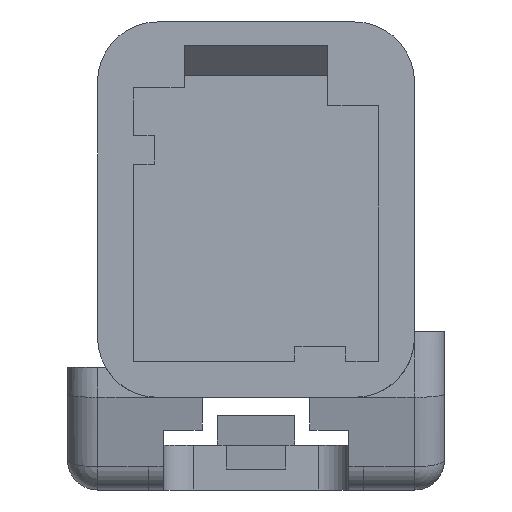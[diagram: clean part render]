
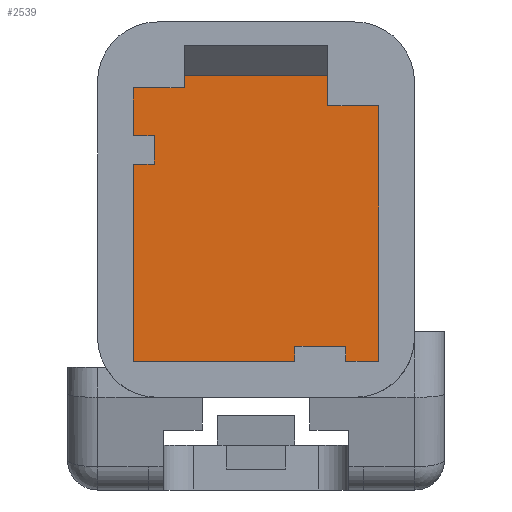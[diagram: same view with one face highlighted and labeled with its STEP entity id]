
A CAD part, left-side view. The second image highlights one B-rep face of the part: STEP entity #2539.
In plain terms, the highlighted planar face has unit normal (-1, 0, 0).
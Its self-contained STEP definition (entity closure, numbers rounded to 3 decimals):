
#2439=AXIS2_PLACEMENT_3D('Plane Axis2P3D',#2436,#2437,#2438) ;
#2041=CARTESIAN_POINT('Vertex',(0.,-1.4,5.225)) ;
#2044=CARTESIAN_POINT('Line Origine',(0.,-2.25,5.225)) ;
#2048=CARTESIAN_POINT('Vertex',(0.,-3.1,5.225)) ;
#2068=CARTESIAN_POINT('Line Origine',(0.,-3.1,0.95)) ;
#2072=CARTESIAN_POINT('Vertex',(0.,-3.1,-3.325)) ;
#2099=CARTESIAN_POINT('Line Origine',(0.,-2.55,-3.325)) ;
#2103=CARTESIAN_POINT('Vertex',(0.,-2.,-3.325)) ;
#2143=CARTESIAN_POINT('Vertex',(0.,3.4,6.625)) ;
#2146=CARTESIAN_POINT('Line Origine',(0.,3.,6.625)) ;
#2150=CARTESIAN_POINT('Vertex',(0.,2.6,6.625)) ;
#2169=CARTESIAN_POINT('Vertex',(0.,-0.6,6.625)) ;
#2174=CARTESIAN_POINT('Line Origine',(0.,-1.,6.625)) ;
#2178=CARTESIAN_POINT('Vertex',(0.,-1.4,6.625)) ;
#2205=CARTESIAN_POINT('Line Origine',(0.,5.1,-0.025)) ;
#2209=CARTESIAN_POINT('Vertex',(0.,5.1,-3.325)) ;
#2211=CARTESIAN_POINT('Vertex',(0.,5.1,3.275)) ;
#2240=CARTESIAN_POINT('Line Origine',(0.,2.4,-3.325)) ;
#2244=CARTESIAN_POINT('Vertex',(0.,-0.3,-3.325)) ;
#2277=CARTESIAN_POINT('Vertex',(0.,4.4,3.275)) ;
#2285=CARTESIAN_POINT('Line Origine',(0.,4.75,3.275)) ;
#2436=CARTESIAN_POINT('Axis2P3D Location',(0.,1.,0.275)) ;
#2441=CARTESIAN_POINT('Line Origine',(0.,-1.4,5.925)) ;
#2446=CARTESIAN_POINT('Line Origine',(0.,-0.6,6.725)) ;
#2450=CARTESIAN_POINT('Vertex',(0.,-0.6,6.825)) ;
#2453=CARTESIAN_POINT('Line Origine',(0.,1.,6.825)) ;
#2457=CARTESIAN_POINT('Vertex',(0.,2.6,6.825)) ;
#2460=CARTESIAN_POINT('Line Origine',(0.,2.6,6.725)) ;
#2465=CARTESIAN_POINT('Line Origine',(0.,3.4,6.225)) ;
#2469=CARTESIAN_POINT('Vertex',(0.,3.4,5.825)) ;
#2472=CARTESIAN_POINT('Line Origine',(0.,4.25,5.825)) ;
#2476=CARTESIAN_POINT('Vertex',(0.,5.1,5.825)) ;
#2479=CARTESIAN_POINT('Line Origine',(0.,5.1,5.025)) ;
#2483=CARTESIAN_POINT('Vertex',(0.,5.1,4.225)) ;
#2486=CARTESIAN_POINT('Line Origine',(0.,4.75,4.225)) ;
#2490=CARTESIAN_POINT('Vertex',(0.,4.4,4.225)) ;
#2493=CARTESIAN_POINT('Line Origine',(0.,4.4,3.75)) ;
#2498=CARTESIAN_POINT('Line Origine',(0.,-0.3,-3.075)) ;
#2502=CARTESIAN_POINT('Vertex',(0.,-0.3,-2.825)) ;
#2505=CARTESIAN_POINT('Line Origine',(0.,-1.15,-2.825)) ;
#2509=CARTESIAN_POINT('Vertex',(0.,-2.,-2.825)) ;
#2512=CARTESIAN_POINT('Line Origine',(0.,-2.,-3.075)) ;
#2045=DIRECTION('Vector Direction',(0.,1.,0.)) ;
#2069=DIRECTION('Vector Direction',(0.,0.,-1.)) ;
#2100=DIRECTION('Vector Direction',(0.,1.,0.)) ;
#2147=DIRECTION('Vector Direction',(0.,-1.,0.)) ;
#2175=DIRECTION('Vector Direction',(0.,-1.,0.)) ;
#2206=DIRECTION('Vector Direction',(0.,0.,1.)) ;
#2241=DIRECTION('Vector Direction',(0.,1.,0.)) ;
#2286=DIRECTION('Vector Direction',(0.,-1.,0.)) ;
#2437=DIRECTION('Axis2P3D Direction',(1.,0.,0.)) ;
#2438=DIRECTION('Axis2P3D XDirection',(0.,1.,0.)) ;
#2442=DIRECTION('Vector Direction',(0.,0.,-1.)) ;
#2447=DIRECTION('Vector Direction',(0.,0.,1.)) ;
#2454=DIRECTION('Vector Direction',(0.,-1.,0.)) ;
#2461=DIRECTION('Vector Direction',(0.,0.,-1.)) ;
#2466=DIRECTION('Vector Direction',(0.,0.,1.)) ;
#2473=DIRECTION('Vector Direction',(0.,-1.,0.)) ;
#2480=DIRECTION('Vector Direction',(0.,0.,1.)) ;
#2487=DIRECTION('Vector Direction',(0.,-1.,0.)) ;
#2494=DIRECTION('Vector Direction',(0.,0.,1.)) ;
#2499=DIRECTION('Vector Direction',(0.,0.,1.)) ;
#2506=DIRECTION('Vector Direction',(0.,-1.,0.)) ;
#2513=DIRECTION('Vector Direction',(0.,0.,1.)) ;
#2046=VECTOR('Line Direction',#2045,1.) ;
#2070=VECTOR('Line Direction',#2069,1.) ;
#2101=VECTOR('Line Direction',#2100,1.) ;
#2148=VECTOR('Line Direction',#2147,1.) ;
#2176=VECTOR('Line Direction',#2175,1.) ;
#2207=VECTOR('Line Direction',#2206,1.) ;
#2242=VECTOR('Line Direction',#2241,1.) ;
#2287=VECTOR('Line Direction',#2286,1.) ;
#2443=VECTOR('Line Direction',#2442,1.) ;
#2448=VECTOR('Line Direction',#2447,1.) ;
#2455=VECTOR('Line Direction',#2454,1.) ;
#2462=VECTOR('Line Direction',#2461,1.) ;
#2467=VECTOR('Line Direction',#2466,1.) ;
#2474=VECTOR('Line Direction',#2473,1.) ;
#2481=VECTOR('Line Direction',#2480,1.) ;
#2488=VECTOR('Line Direction',#2487,1.) ;
#2495=VECTOR('Line Direction',#2494,1.) ;
#2500=VECTOR('Line Direction',#2499,1.) ;
#2507=VECTOR('Line Direction',#2506,1.) ;
#2514=VECTOR('Line Direction',#2513,1.) ;
#2518=ORIENTED_EDGE('',*,*,#2445,.F.) ;
#2519=ORIENTED_EDGE('',*,*,#2180,.F.) ;
#2520=ORIENTED_EDGE('',*,*,#2452,.T.) ;
#2521=ORIENTED_EDGE('',*,*,#2459,.T.) ;
#2522=ORIENTED_EDGE('',*,*,#2464,.T.) ;
#2523=ORIENTED_EDGE('',*,*,#2152,.F.) ;
#2524=ORIENTED_EDGE('',*,*,#2471,.F.) ;
#2525=ORIENTED_EDGE('',*,*,#2478,.F.) ;
#2526=ORIENTED_EDGE('',*,*,#2485,.F.) ;
#2527=ORIENTED_EDGE('',*,*,#2492,.T.) ;
#2528=ORIENTED_EDGE('',*,*,#2497,.F.) ;
#2529=ORIENTED_EDGE('',*,*,#2289,.F.) ;
#2530=ORIENTED_EDGE('',*,*,#2213,.F.) ;
#2531=ORIENTED_EDGE('',*,*,#2246,.F.) ;
#2532=ORIENTED_EDGE('',*,*,#2504,.T.) ;
#2533=ORIENTED_EDGE('',*,*,#2511,.T.) ;
#2534=ORIENTED_EDGE('',*,*,#2516,.F.) ;
#2535=ORIENTED_EDGE('',*,*,#2105,.F.) ;
#2536=ORIENTED_EDGE('',*,*,#2074,.F.) ;
#2537=ORIENTED_EDGE('',*,*,#2050,.F.) ;
#2539=ADVANCED_FACE('\X2\FF8AFF9FFF70FF82\X0\ \X2\FF8EFF9EFF83FF9EFF68FF70\X0\',(#2538),#2440,.F.) ;
#2050=EDGE_CURVE('',#2042,#2049,#2047,.F.) ;
#2074=EDGE_CURVE('',#2049,#2073,#2071,.T.) ;
#2105=EDGE_CURVE('',#2073,#2104,#2102,.T.) ;
#2152=EDGE_CURVE('',#2144,#2151,#2149,.T.) ;
#2180=EDGE_CURVE('',#2170,#2179,#2177,.T.) ;
#2213=EDGE_CURVE('',#2210,#2212,#2208,.T.) ;
#2246=EDGE_CURVE('',#2245,#2210,#2243,.T.) ;
#2289=EDGE_CURVE('',#2212,#2278,#2288,.T.) ;
#2445=EDGE_CURVE('',#2179,#2042,#2444,.T.) ;
#2452=EDGE_CURVE('',#2170,#2451,#2449,.T.) ;
#2459=EDGE_CURVE('',#2451,#2458,#2456,.F.) ;
#2464=EDGE_CURVE('',#2458,#2151,#2463,.T.) ;
#2471=EDGE_CURVE('',#2470,#2144,#2468,.T.) ;
#2478=EDGE_CURVE('',#2477,#2470,#2475,.T.) ;
#2485=EDGE_CURVE('',#2484,#2477,#2482,.T.) ;
#2492=EDGE_CURVE('',#2484,#2491,#2489,.T.) ;
#2497=EDGE_CURVE('',#2278,#2491,#2496,.T.) ;
#2504=EDGE_CURVE('',#2245,#2503,#2501,.T.) ;
#2511=EDGE_CURVE('',#2503,#2510,#2508,.T.) ;
#2516=EDGE_CURVE('',#2104,#2510,#2515,.T.) ;
#2517=EDGE_LOOP('',(#2518,#2519,#2520,#2521,#2522,#2523,#2524,#2525,#2526,#2527,#2528,#2529,#2530,#2531,#2532,#2533,#2534,#2535,#2536,#2537)) ;
#2538=FACE_OUTER_BOUND('',#2517,.T.) ;
#2047=LINE('Line',#2044,#2046) ;
#2071=LINE('Line',#2068,#2070) ;
#2102=LINE('Line',#2099,#2101) ;
#2149=LINE('Line',#2146,#2148) ;
#2177=LINE('Line',#2174,#2176) ;
#2208=LINE('Line',#2205,#2207) ;
#2243=LINE('Line',#2240,#2242) ;
#2288=LINE('Line',#2285,#2287) ;
#2444=LINE('Line',#2441,#2443) ;
#2449=LINE('Line',#2446,#2448) ;
#2456=LINE('Line',#2453,#2455) ;
#2463=LINE('Line',#2460,#2462) ;
#2468=LINE('Line',#2465,#2467) ;
#2475=LINE('Line',#2472,#2474) ;
#2482=LINE('Line',#2479,#2481) ;
#2489=LINE('Line',#2486,#2488) ;
#2496=LINE('Line',#2493,#2495) ;
#2501=LINE('Line',#2498,#2500) ;
#2508=LINE('Line',#2505,#2507) ;
#2515=LINE('Line',#2512,#2514) ;
#2440=PLANE('',#2439) ;
#2042=VERTEX_POINT('',#2041) ;
#2049=VERTEX_POINT('',#2048) ;
#2073=VERTEX_POINT('',#2072) ;
#2104=VERTEX_POINT('',#2103) ;
#2144=VERTEX_POINT('',#2143) ;
#2151=VERTEX_POINT('',#2150) ;
#2170=VERTEX_POINT('',#2169) ;
#2179=VERTEX_POINT('',#2178) ;
#2210=VERTEX_POINT('',#2209) ;
#2212=VERTEX_POINT('',#2211) ;
#2245=VERTEX_POINT('',#2244) ;
#2278=VERTEX_POINT('',#2277) ;
#2451=VERTEX_POINT('',#2450) ;
#2458=VERTEX_POINT('',#2457) ;
#2470=VERTEX_POINT('',#2469) ;
#2477=VERTEX_POINT('',#2476) ;
#2484=VERTEX_POINT('',#2483) ;
#2491=VERTEX_POINT('',#2490) ;
#2503=VERTEX_POINT('',#2502) ;
#2510=VERTEX_POINT('',#2509) ;
